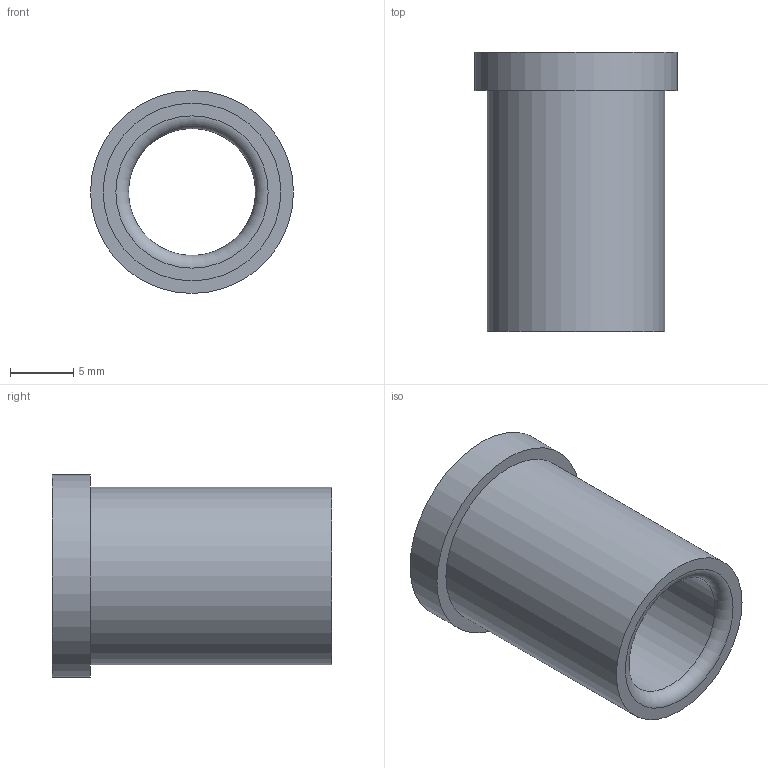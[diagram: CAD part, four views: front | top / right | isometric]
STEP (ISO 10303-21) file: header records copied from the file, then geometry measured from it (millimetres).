
FILE_DESCRIPTION(/* description */ ('STEP AP214'),/* implementation_level */ '2;1');
FILE_NAME(/* name */ '03_12_17835',/* time_stamp */ '2023-06-15T11:35:21+02:00',/* author */ ('License CC BY-ND 4.0'),/* organization */ ('CADENAS'),/* preprocessor_version */ 'ST-DEVELOPER v19.3',/* originating_system */ 'PARTsolutions',/* authorisation */ ' ');
FILE_SCHEMA (('AUTOMOTIVE_DESIGN {1 0 10303 214 3 1 1}'));
Length unit declared in the file: millimetre
Products named in the file (1): VA_Bushing_17835
Bounding box: 16 x 22 x 16 mm (x, y, z)
Volume: 1742.9 mm3; surface area: 1904.1 mm2
Topology: 1 solids, 1 shells, 10 faces, 16 edges, 10 vertices
Faces by surface type: cylinder 4, plane 4, torus 2
Full cylindrical faces by diameter (mm): 10 x1, 10.6 x1, 14 x1, 16 x1
Entity records: 302 total; most frequent: DIRECTION 42, CARTESIAN_POINT 31, AXIS2_PLACEMENT_3D 21, ORIENTED_EDGE 20, EDGE_LOOP 20, FACE_BOUND 20, EDGE_CURVE 10, VERTEX_POINT 10
